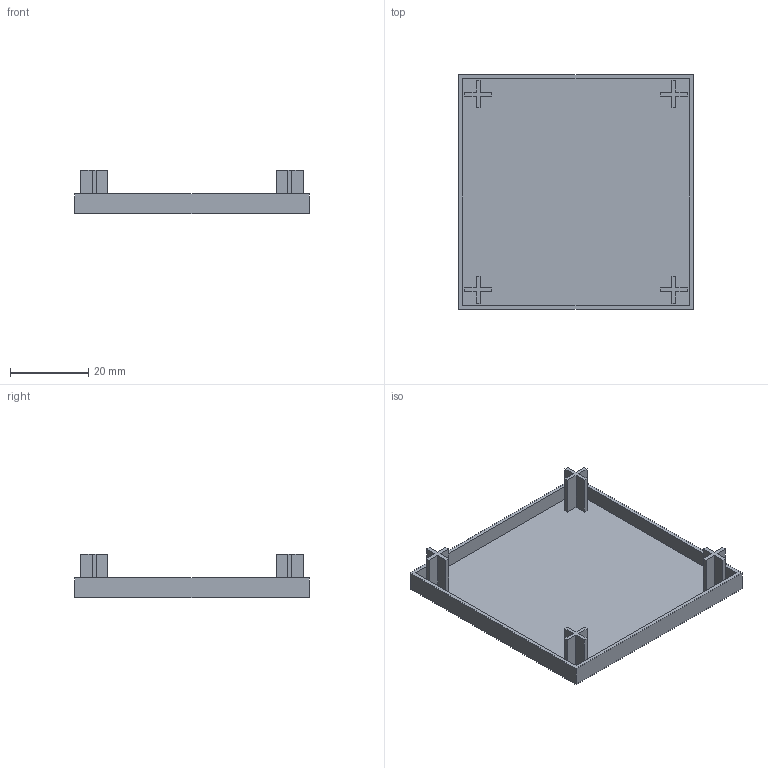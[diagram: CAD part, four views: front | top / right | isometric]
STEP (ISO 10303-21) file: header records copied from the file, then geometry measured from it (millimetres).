
FILE_DESCRIPTION (( 'STEP AP203' ), '1' );
FILE_NAME ('180-CE-CP-6060G.STEP', '2015-07-09T09:16:49', ( '' ), ( '' ), 'SwSTEP 2.0', 'SolidWorks 2013', '' );
FILE_SCHEMA (( 'CONFIG_CONTROL_DESIGN' ));
Length unit declared in the file: millimetre
Products named in the file (1): 180-CE-CP-6060G
Bounding box: 60 x 60 x 11 mm (x, y, z)
Volume: 5064 mm3; surface area: 10448 mm2
Topology: 1 solids, 1 shells, 63 faces, 168 edges, 112 vertices
Faces by surface type: plane 63
Entity records: 1999 total; most frequent: CARTESIAN_POINT 344, ORIENTED_EDGE 336, DIRECTION 296, LINE 168, EDGE_CURVE 168, VECTOR 168, VERTEX_POINT 112, EDGE_LOOP 68
